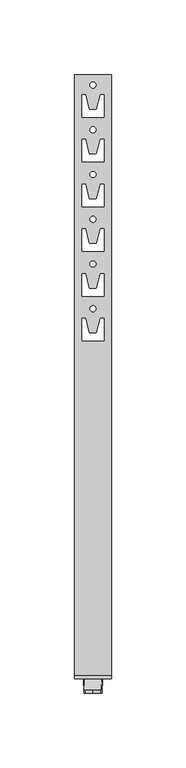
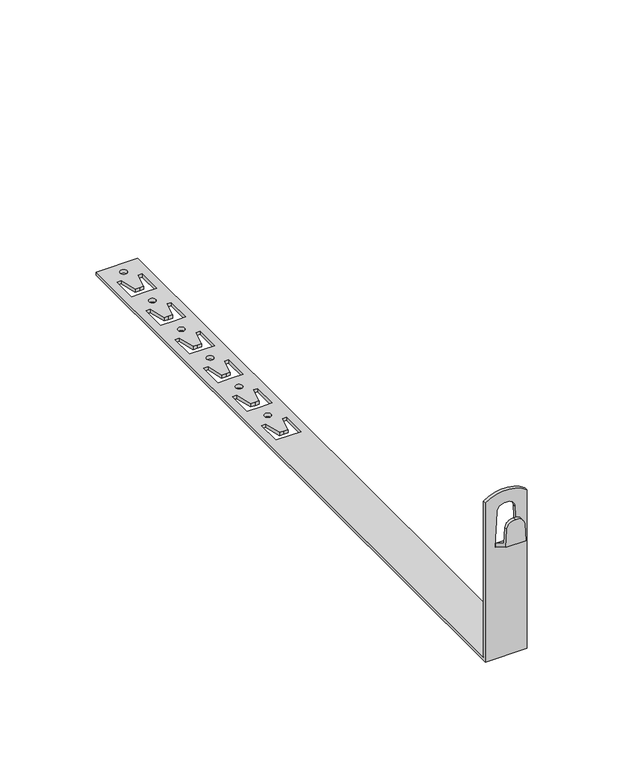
"""IFC4 building model written with IfcOpenShell, lengths in millimetres: proxy geometry, КНС_ДержательПрямойПодЧерепицу_DKC : ND2210CU_Медь_415 мм."""

import ifcopenshell
import ifcopenshell.guid

model = None  # the IFC model being written
_history = None  # IfcOwnerHistory: only IFC2X3 demands one
_inside = {}  # id of a spatial element -> (the spatial element, [elements in it])
_under = {}  # id of a project, library or spatial element -> (it, [spatial elements below it])
_declared = {}  # id of a project -> (the project, [libraries it declares])
_typed = {}  # id of a type object -> (the type object, [elements of that type])
_made_of = {}  # id of a material, layer set ... -> (it, [elements and type objects made of it])


def new_model(schema):
    """Start an empty IFC model of exactly this schema.

    Asked for "IFC4X3", IfcOpenShell would pick the latest addendum, in which some entities
    have other attributes; the version numbers below select the first issue.
    IFC2X3 requires an IfcOwnerHistory on every rooted entity: one is made here for all.
    """
    global model, _history
    if schema == "IFC4X3":
        model = ifcopenshell.file(schema_version=(4, 3, 0, 0))
    else:
        model = ifcopenshell.file(schema=schema)
    _inside.clear()
    _under.clear()
    _declared.clear()
    _typed.clear()
    _made_of.clear()
    _history = None
    if model.schema == "IFC2X3":
        org = make("IfcOrganization", Name="unknown")
        user = make(
            "IfcPersonAndOrganization",
            ThePerson=make("IfcPerson", FamilyName="unknown"),
            TheOrganization=org,
        )
        app = make(
            "IfcApplication",
            ApplicationDeveloper=org,
            Version="unknown",
            ApplicationFullName="unknown",
            ApplicationIdentifier="unknown",
        )
        _history = make(
            "IfcOwnerHistory",
            OwningUser=user,
            OwningApplication=app,
            ChangeAction="ADDED",
            CreationDate=0,
        )
    return model


def make(cls, **values):
    """One entity of the class cls with the attributes given. An attribute that is None is left unset."""
    return model.create_entity(
        cls, **{name: value for name, value in values.items() if value is not None}
    )


def rooted(cls, **values):
    """An entity with a GlobalId (a new one), such as an element, a storey or a relation."""
    return make(cls, GlobalId=ifcopenshell.guid.new(), OwnerHistory=_history, **values)


def si_unit(unit_type, name, prefix=None):
    """IfcSIUnit, for example si_unit("LENGTHUNIT", "METRE", prefix="MILLI")."""
    return make("IfcSIUnit", UnitType=unit_type, Prefix=prefix, Name=name)


def assignment(units):
    """IfcUnitAssignment: the units of a project."""
    return None if units is None else make("IfcUnitAssignment", Units=units)


def point(xyz):
    """IfcCartesianPoint."""
    return None if xyz is None else make("IfcCartesianPoint", Coordinates=xyz)


def direction(xyz):
    """IfcDirection."""
    return None if xyz is None else make("IfcDirection", DirectionRatios=xyz)


def frame(location, z_axis=None, x_axis=None):
    """IfcAxis2Placement3D, a coordinate frame: its origin and axes. An axis left out is left unset."""
    return make(
        "IfcAxis2Placement3D",
        Location=point(location),
        Axis=direction(z_axis),
        RefDirection=direction(x_axis),
    )


def origin():
    """The frame at (0, 0, 0) with its axes left unset."""
    return frame((0.0, 0.0, 0.0))


def place(relative_to, where):
    """IfcLocalPlacement: puts the frame where relative to a parent placement (None: the world)."""
    return make(
        "IfcLocalPlacement", PlacementRelTo=relative_to, RelativePlacement=where
    )


def context(
    kind, dimensions, precision=None, world=None, true_north=None, identifier=None
):
    """IfcGeometricRepresentationContext, for example the 3D "Model" context."""
    return make(
        "IfcGeometricRepresentationContext",
        ContextIdentifier=identifier,
        ContextType=kind,
        CoordinateSpaceDimension=dimensions,
        Precision=precision,
        WorldCoordinateSystem=world,
        TrueNorth=true_north,
    )


def project(units=None, contexts=None):
    """IfcProject with its units and contexts."""
    return rooted(
        "IfcProject",
        Name="project",
        RepresentationContexts=contexts,
        UnitsInContext=assignment(units),
    )


def spatial(cls, under=None, at=None, **own):
    """A site, building, storey or space (cls), placed at a placement, below another one or the project."""
    s = rooted(cls, ObjectPlacement=at, **own)
    if under is not None:
        _under.setdefault(under.id(), (under, []))[1].append(s)
    return s


def polyline(points):
    """IfcPolyline through the points."""
    return make("IfcPolyline", Points=[point(p) for p in points])


def circle_curve(where, radius):
    """IfcCircle in the frame where."""
    return make("IfcCircle", Position=where, Radius=radius)


def shape(context_of_items, identifier, shape_type, items):
    """IfcShapeRepresentation: the items that make up one representation, for example the "Body"."""
    return make(
        "IfcShapeRepresentation",
        ContextOfItems=context_of_items,
        RepresentationIdentifier=identifier,
        RepresentationType=shape_type,
        Items=items,
    )


def source(mapping_origin, context_of_items, identifier, shape_type, items):
    """IfcRepresentationMap: a shape defined once, which mapped items show again and again."""
    return make(
        "IfcRepresentationMap",
        MappingOrigin=mapping_origin,
        MappedRepresentation=shape(context_of_items, identifier, shape_type, items),
    )


def transform(
    local_origin,
    x_axis=None,
    y_axis=None,
    z_axis=None,
    scale=None,
    scale2=None,
    scale3=None,
    uniform=True,
):
    """IfcCartesianTransformationOperator3D, or its non-uniform kind. x_axis, y_axis, z_axis: its Axis1, 2, 3."""
    if uniform:
        return make(
            "IfcCartesianTransformationOperator3D",
            Axis1=direction(x_axis),
            Axis2=direction(y_axis),
            LocalOrigin=point(local_origin),
            Scale=scale,
            Axis3=direction(z_axis),
        )
    return make(
        "IfcCartesianTransformationOperator3DnonUniform",
        Axis1=direction(x_axis),
        Axis2=direction(y_axis),
        LocalOrigin=point(local_origin),
        Scale=scale,
        Axis3=direction(z_axis),
        Scale2=scale2,
        Scale3=scale3,
    )


def mapped(mapping_source, mapping_target):
    """IfcMappedItem: shows the shape of a source again, moved by a transform."""
    return make(
        "IfcMappedItem", MappingSource=mapping_source, MappingTarget=mapping_target
    )


def made_of(thing, what):
    """Note that an element or type object is made of a material, layer set ...; save() writes the relation."""
    if what is not None:
        _made_of.setdefault(what.id(), (what, []))[1].append(thing)
    return thing


def element(
    cls,
    number,
    at=None,
    inside=None,
    cuts=None,
    type_object=None,
    material=None,
    context=None,
    identifier="Body",
    shape_type=None,
    held_by="IfcProductDefinitionShape",
    body=None,
    shapes=None,
    **own,
):
    """One element of the class cls, such as IfcWall. Its Tag is "e" and its number.

    at: its placement. inside: the storey or other place that contains it. cuts: it is an
    opening in that element (IfcRelVoidsElement). A single representation is given by context,
    identifier, shape_type and body (its items); several are given by shapes. held_by: the class
    of the entity that holds the representations. save() writes the other relations.
    """
    e = rooted(cls, Tag="e%d" % number, ObjectPlacement=at, **own)
    if body is not None:
        shapes = [shape(context, identifier, shape_type, body)]
    if shapes is not None:
        e.Representation = make(held_by, Representations=shapes)
    if inside is not None:
        _inside.setdefault(inside.id(), (inside, []))[1].append(e)
    if cuts is not None:
        rooted(
            "IfcRelVoidsElement", RelatingBuildingElement=cuts, RelatedOpeningElement=e
        )
    if type_object is not None:
        _typed.setdefault(type_object.id(), (type_object, []))[1].append(e)
    return made_of(e, material)


def aggregate(whole, parts):
    """IfcRelAggregates: a whole, such as a stair, and the parts it consists of."""
    return rooted("IfcRelAggregates", RelatingObject=whole, RelatedObjects=parts)


def save(model, path):
    """Write the relations noted so far, then the file.

    IfcRelAggregates (storeys below a building ...), IfcRelContainedInSpatialStructure (elements
    in a storey), IfcRelDefinesByType, IfcRelAssociatesMaterial and IfcRelDeclares: one each for
    every whole, place, type object, material and project.
    """
    for whole, parts in _under.values():
        aggregate(whole, parts)
    for where, things in _inside.values():
        rooted(
            "IfcRelContainedInSpatialStructure",
            RelatedElements=things,
            RelatingStructure=where,
        )
    for kind, things in _typed.values():
        rooted("IfcRelDefinesByType", RelatedObjects=things, RelatingType=kind)
    for what, things in _made_of.values():
        rooted("IfcRelAssociatesMaterial", RelatedObjects=things, RelatingMaterial=what)
    for by, libraries in _declared.values():
        rooted("IfcRelDeclares", RelatingContext=by, RelatedDefinitions=libraries)
    model.write(path)


def plane_surface(at):
    """IfcPlane: the flat surface through the origin of the frame at, square to its z axis."""
    return make("IfcPlane", Position=at)


def cylinder_surface(at, radius):
    """IfcCylindricalSurface: all points at the distance radius from the z axis of the frame at."""
    return make("IfcCylindricalSurface", Position=at, Radius=radius)


def revolved_surface(curve, axis_point, axis_direction):
    """IfcSurfaceOfRevolution: the curve turned about the line through axis_point along axis_direction."""
    return make(
        "IfcSurfaceOfRevolution",
        SweptCurve=make("IfcArbitraryOpenProfileDef", ProfileType="CURVE", Curve=curve),
        AxisPosition=make("IfcAxis1Placement", Location=point(axis_point), Axis=direction(axis_direction)),
    )


def advanced_brep(points, edges, surfaces, faces):
    """IfcAdvancedBrep: a solid bounded by faces that lie on surfaces and meet in shared edges.

    An edge is (start, end): straight between two places in points (the first is 0);
    or (start, end, curve); or (start, end, curve, False) where it runs against its curve.
    A face is (place in surfaces, loops), or (place, loops, False) where it looks against
    its surface's normal. A loop lists edges by number (the first is 1), with a minus sign
    where the edge is run from its end to its start. The first loop is the outer one.
    """
    corners = [point(p) for p in points]
    vertices = [make("IfcVertexPoint", VertexGeometry=c) for c in corners]
    made = []
    for start, end, *more in edges:
        made.append(
            make(
                "IfcEdgeCurve",
                EdgeStart=vertices[start],
                EdgeEnd=vertices[end],
                EdgeGeometry=more[0] if more else make("IfcPolyline", Points=[corners[start], corners[end]]),
                SameSense=more[1] if len(more) > 1 else True,
            )
        )
    hull = []
    for where, loops, *sense in faces:
        bounds = []
        for j, loop in enumerate(loops):
            ring = [make("IfcOrientedEdge", EdgeElement=made[abs(k) - 1], Orientation=k > 0) for k in loop]
            bounds.append(
                make(
                    "IfcFaceOuterBound" if j == 0 else "IfcFaceBound",
                    Bound=make("IfcEdgeLoop", EdgeList=ring),
                    Orientation=True,
                )
            )
        hull.append(make("IfcAdvancedFace", Bounds=bounds, FaceSurface=surfaces[where], SameSense=sense[0] if sense else True))
    return make("IfcAdvancedBrep", Outer=make("IfcClosedShell", CfsFaces=hull))


def security_devices_0d63e940(model_context):
    return source(origin(), model_context, "Body", "AdvancedBrep", [
        advanced_brep(
        [(5.3645288, 0.0, 87.6660817), (0.0, 0.0, 92.1674559), (-5.3645288, 0.0, 87.6660817), (-5.9353846, 0.0, 76.7735027), (5.9353846, 0.0, 76.7735027), (6.2379611, 10.0, 71.0), (-6.2379611, 10.0, 71.0), (-6.1169305, 10.0, 73.3094011), (6.1169305, 10.0, 73.3094011), (-5.3645288, 2.0, 87.6660817), (-5.8748694, 2.0, 77.9282032), (5.8748694, 2.0, 77.9282032), (5.3645288, 2.0, 87.6660817), (0.0, 2.0, 92.1674559)],
        [
            (0, 1, circle_curve(frame((0.5834648, 0.0, 87.4155168), z_axis=(0.0, -1.0, 0.0), x_axis=(1.0, 0.0, 0.0)), 4.7876253)),
            (1, 2, circle_curve(frame((-0.5834648, 0.0, 87.4155168), z_axis=(0.0, -1.0, 0.0), x_axis=(1.0, 0.0, 0.0)), 4.7876253)),
            (2, 3),
            (3, 4),
            (4, 0),
            (5, 6),
            (6, 7),
            (7, 8),
            (8, 5),
            (2, 9),
            (9, 10),
            (10, 7),
            (6, 3),
            (4, 5),
            (8, 11),
            (11, 12),
            (12, 0),
            (12, 13, circle_curve(frame((0.5834648, 2.0, 87.4155168), z_axis=(0.0, -1.0, 0.0), x_axis=(1.0, 0.0, 0.0)), 4.7876253)),
            (13, 1),
            (13, 9, circle_curve(frame((-0.5834648, 2.0, 87.4155168), z_axis=(0.0, -1.0, 0.0), x_axis=(1.0, 0.0, 0.0)), 4.7876253)),
            (10, 11),
        ],
        [
            plane_surface(frame((-6.2414541, 0.0, 70.9333499), z_axis=(0.0, -1.0, 0.0), x_axis=(-0.05233595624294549, 0.0, -0.9986295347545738))),
            plane_surface(frame((-6.2414541, 10.0, 70.9333499), z_axis=(0.0, 1.0, 0.0), x_axis=(0.05233595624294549, 0.0, 0.9986295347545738))),
            plane_surface(frame((-5.3645288, 0.0, 87.6660817), z_axis=(-0.9986295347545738, 0.0, 0.05233595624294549), x_axis=(0.0, 1.0, 0.0))),
            plane_surface(frame((6.2379611, 0.0, 71.0), z_axis=(0.9986295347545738, 0.0, 0.05233595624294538), x_axis=(0.0, 1.0, 0.0))),
            cylinder_surface(frame((0.5834648, 10.0, 87.4155168), z_axis=(0.0, -1.0, 0.0), x_axis=(1.0, 0.0, 0.0)), 4.7876253),
            cylinder_surface(frame((-0.5834648, 10.0, 87.4155168), z_axis=(0.0, -1.0, 0.0), x_axis=(1.0, 0.0, 0.0)), 4.7876253),
            plane_surface(frame((12.5, 10.0, 71.0), z_axis=(0.0, -0.5000000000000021, -0.8660254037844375), x_axis=(-1.0, 0.0, 0.0))),
            plane_surface(frame((12.5, 2.0, 77.9282032), z_axis=(0.0, 0.5000000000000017, 0.8660254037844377), x_axis=(-1.0, 0.0, 0.0))),
            plane_surface(frame((12.5, 2.0, 102.9372685), z_axis=(0.0, 1.0, 0.0), x_axis=(-1.0, 0.0, 0.0))),
        ],
        [
            (0, [[1, 2, 3, 4, 5]]),
            (1, [[6, 7, 8, 9]]),
            (2, [[-3, 10, 11, 12, -7, 13]]),
            (3, [[-5, 14, -9, 15, 16, 17]]),
            (4, [[-1, -17, 18, 19]]),
            (5, [[-2, -19, 20, -10]]),
            (6, [[-4, -13, -6, -14]]),
            (7, [[21, -15, -8, -12]]),
            (8, [[-21, -11, -20, -18, -16]]),
        ],
    ),
        advanced_brep(
        [(12.5, 415.0, 2.0), (-12.5, 415.0, 2.0), (-12.5, 12.0, 2.0), (12.5, 12.0, 2.0), (-2.0, 407.9763791, 2.0), (2.0, 407.9763791, 2.0), (-7.5, 386.5, 2.0), (-7.5, 401.5981413, 2.0), (-5.0452497, 401.5981413, 2.0), (-2.5276553, 391.5, 2.0), (0.0, 391.5, 2.0), (2.5276553, 391.5, 2.0), (5.0452497, 401.5981413, 2.0), (7.5, 401.5981413, 2.0), (7.5, 386.5, 2.0), (0.0, 386.5, 2.0), (-2.0, 377.9763791, 2.0), (2.0, 377.9763791, 2.0), (-7.5, 356.5, 2.0), (-7.5, 371.5981413, 2.0), (-5.0452497, 371.5981413, 2.0), (-2.5276553, 361.5, 2.0), (0.0, 361.5, 2.0), (2.5276553, 361.5, 2.0), (5.0452497, 371.5981413, 2.0), (7.5, 371.5981413, 2.0), (7.5, 356.5, 2.0), (0.0, 356.5, 2.0), (-2.0, 347.9763791, 2.0), (2.0, 347.9763791, 2.0), (-7.5, 326.5, 2.0), (-7.5, 341.5981413, 2.0), (-5.0452497, 341.5981413, 2.0), (-2.5276553, 331.5, 2.0), (0.0, 331.5, 2.0), (2.5276553, 331.5, 2.0), (5.0452497, 341.5981413, 2.0), (7.5, 341.5981413, 2.0), (7.5, 326.5, 2.0), (0.0, 326.5, 2.0), (-2.0, 317.9763791, 2.0), (2.0, 317.9763791, 2.0), (-7.5, 296.5, 2.0), (-7.5, 311.5981413, 2.0), (-5.0452497, 311.5981413, 2.0), (-2.5276553, 301.5, 2.0), (0.0, 301.5, 2.0), (2.5276553, 301.5, 2.0), (5.0452497, 311.5981413, 2.0), (7.5, 311.5981413, 2.0), (7.5, 296.5, 2.0), (0.0, 296.5, 2.0), (-2.0, 287.9763791, 2.0), (2.0, 287.9763791, 2.0), (-7.5, 266.5, 2.0), (-7.5, 281.5981413, 2.0), (-5.0452497, 281.5981413, 2.0), (-2.5276553, 271.5, 2.0), (0.0, 271.5, 2.0), (2.5276553, 271.5, 2.0), (5.0452497, 281.5981413, 2.0), (7.5, 281.5981413, 2.0), (7.5, 266.5, 2.0), (0.0, 266.5, 2.0), (-2.0, 257.9763791, 2.0), (2.0, 257.9763791, 2.0), (-7.5, 236.5, 2.0), (-7.5, 251.5981413, 2.0), (-5.0452497, 251.5981413, 2.0), (-2.5276553, 241.5, 2.0), (0.0, 241.5, 2.0), (2.5276553, 241.5, 2.0), (5.0452497, 251.5981413, 2.0), (7.5, 251.5981413, 2.0), (7.5, 236.5, 2.0), (0.0, 236.5, 2.0), (12.5, 415.0, 0.0), (12.5, 10.0, 0.0), (-12.5, 10.0, 0.0), (-12.5, 415.0, 0.0), (-2.0, 407.9763791, 0.0), (2.0, 407.9763791, 0.0), (-7.5, 386.5, 0.0), (0.0, 386.5, 0.0), (7.5, 386.5, 0.0), (7.5, 401.5981413, 0.0), (5.0452497, 401.5981413, 0.0), (2.5276553, 391.5, 0.0), (0.0, 391.5, 0.0), (-2.5276553, 391.5, 0.0), (-5.0452497, 401.5981413, 0.0), (-7.5, 401.5981413, 0.0), (-2.0, 377.9763791, 0.0), (2.0, 377.9763791, 0.0), (-7.5, 356.5, 0.0), (0.0, 356.5, 0.0), (7.5, 356.5, 0.0), (7.5, 371.5981413, 0.0), (5.0452497, 371.5981413, 0.0), (2.5276553, 361.5, 0.0), (0.0, 361.5, 0.0), (-2.5276553, 361.5, 0.0), (-5.0452497, 371.5981413, 0.0), (-7.5, 371.5981413, 0.0), (-2.0, 347.9763791, 0.0), (2.0, 347.9763791, 0.0), (-7.5, 326.5, 0.0), (0.0, 326.5, 0.0), (7.5, 326.5, 0.0), (7.5, 341.5981413, 0.0), (5.0452497, 341.5981413, 0.0), (2.5276553, 331.5, 0.0), (0.0, 331.5, 0.0), (-2.5276553, 331.5, 0.0), (-5.0452497, 341.5981413, 0.0), (-7.5, 341.5981413, 0.0), (-2.0, 317.9763791, 0.0), (2.0, 317.9763791, 0.0), (-7.5, 296.5, 0.0), (0.0, 296.5, 0.0), (7.5, 296.5, 0.0), (7.5, 311.5981413, 0.0), (5.0452497, 311.5981413, 0.0), (2.5276553, 301.5, 0.0), (0.0, 301.5, 0.0), (-2.5276553, 301.5, 0.0), (-5.0452497, 311.5981413, 0.0), (-7.5, 311.5981413, 0.0), (-2.0, 287.9763791, 0.0), (2.0, 287.9763791, 0.0), (-7.5, 266.5, 0.0), (0.0, 266.5, 0.0), (7.5, 266.5, 0.0), (7.5, 281.5981413, 0.0), (5.0452497, 281.5981413, 0.0), (2.5276553, 271.5, 0.0), (0.0, 271.5, 0.0), (-2.5276553, 271.5, 0.0), (-5.0452497, 281.5981413, 0.0), (-7.5, 281.5981413, 0.0), (-2.0, 257.9763791, 0.0), (2.0, 257.9763791, 0.0), (-7.5, 236.5, 0.0), (0.0, 236.5, 0.0), (7.5, 236.5, 0.0), (7.5, 251.5981413, 0.0), (5.0452497, 251.5981413, 0.0), (2.5276553, 241.5, 0.0), (0.0, 241.5, 0.0), (-2.5276553, 241.5, 0.0), (-5.0452497, 251.5981413, 0.0), (-7.5, 251.5981413, 0.0), (-12.5, 10.0, 100.874537), (-12.5, 12.0, 100.874537), (12.5, 10.0, 100.874537), (-5.3645288, 10.0, 92.6660817), (0.0, 10.0, 97.1674559), (5.3645288, 10.0, 92.6660817), (6.5, 10.0, 71.0), (-6.5, 10.0, 71.0), (12.5, 12.0, 100.874537), (-5.3645288, 12.0, 92.6660817), (-6.5, 12.0, 71.0), (6.5, 12.0, 71.0), (5.3645288, 12.0, 92.6660817), (0.0, 12.0, 97.1674559)],
        [
            (0, 1),
            (1, 2),
            (2, 3),
            (3, 0),
            (4, 5, circle_curve(frame((0.0, 407.9763791, 2.0), z_axis=(0.0, 0.0, -1.0), x_axis=(1.0, 0.0, 0.0)), 2.0)),
            (5, 4, circle_curve(frame((0.0, 407.9763791, 2.0), z_axis=(0.0, 0.0, -1.0), x_axis=(1.0, 0.0, 0.0)), 2.0)),
            (6, 7),
            (7, 8),
            (8, 9),
            (9, 10),
            (10, 11),
            (11, 12),
            (12, 13),
            (13, 14),
            (14, 15),
            (15, 6),
            (16, 17, circle_curve(frame((0.0, 377.9763791, 2.0), z_axis=(0.0, 0.0, -1.0), x_axis=(1.0, 0.0, 0.0)), 2.0)),
            (17, 16, circle_curve(frame((0.0, 377.9763791, 2.0), z_axis=(0.0, 0.0, -1.0), x_axis=(1.0, 0.0, 0.0)), 2.0)),
            (18, 19),
            (19, 20),
            (20, 21),
            (21, 22),
            (22, 23),
            (23, 24),
            (24, 25),
            (25, 26),
            (26, 27),
            (27, 18),
            (28, 29, circle_curve(frame((0.0, 347.9763791, 2.0), z_axis=(0.0, 0.0, -1.0), x_axis=(1.0, 0.0, 0.0)), 2.0)),
            (29, 28, circle_curve(frame((0.0, 347.9763791, 2.0), z_axis=(0.0, 0.0, -1.0), x_axis=(1.0, 0.0, 0.0)), 2.0)),
            (30, 31),
            (31, 32),
            (32, 33),
            (33, 34),
            (34, 35),
            (35, 36),
            (36, 37),
            (37, 38),
            (38, 39),
            (39, 30),
            (40, 41, circle_curve(frame((0.0, 317.9763791, 2.0), z_axis=(0.0, 0.0, -1.0), x_axis=(1.0, 0.0, 0.0)), 2.0)),
            (41, 40, circle_curve(frame((0.0, 317.9763791, 2.0), z_axis=(0.0, 0.0, -1.0), x_axis=(1.0, 0.0, 0.0)), 2.0)),
            (42, 43),
            (43, 44),
            (44, 45),
            (45, 46),
            (46, 47),
            (47, 48),
            (48, 49),
            (49, 50),
            (50, 51),
            (51, 42),
            (52, 53, circle_curve(frame((0.0, 287.9763791, 2.0), z_axis=(0.0, 0.0, -1.0), x_axis=(1.0, 0.0, 0.0)), 2.0)),
            (53, 52, circle_curve(frame((0.0, 287.9763791, 2.0), z_axis=(0.0, 0.0, -1.0), x_axis=(1.0, 0.0, 0.0)), 2.0)),
            (54, 55),
            (55, 56),
            (56, 57),
            (57, 58),
            (58, 59),
            (59, 60),
            (60, 61),
            (61, 62),
            (62, 63),
            (63, 54),
            (64, 65, circle_curve(frame((0.0, 257.9763791, 2.0), z_axis=(0.0, 0.0, -1.0), x_axis=(1.0, 0.0, 0.0)), 2.0)),
            (65, 64, circle_curve(frame((0.0, 257.9763791, 2.0), z_axis=(0.0, 0.0, -1.0), x_axis=(1.0, 0.0, 0.0)), 2.0)),
            (66, 67),
            (67, 68),
            (68, 69),
            (69, 70),
            (70, 71),
            (71, 72),
            (72, 73),
            (73, 74),
            (74, 75),
            (75, 66),
            (76, 77),
            (77, 78),
            (78, 79),
            (79, 76),
            (80, 81, circle_curve(frame((0.0, 407.9763791, 0.0), z_axis=(0.0, 0.0, 1.0), x_axis=(1.0, 0.0, 0.0)), 2.0)),
            (81, 80, circle_curve(frame((0.0, 407.9763791, 0.0), z_axis=(0.0, 0.0, 1.0), x_axis=(1.0, 0.0, 0.0)), 2.0)),
            (82, 83),
            (83, 84),
            (84, 85),
            (85, 86),
            (86, 87),
            (87, 88),
            (88, 89),
            (89, 90),
            (90, 91),
            (91, 82),
            (92, 93, circle_curve(frame((0.0, 377.9763791, 0.0), z_axis=(0.0, 0.0, 1.0), x_axis=(1.0, 0.0, 0.0)), 2.0)),
            (93, 92, circle_curve(frame((0.0, 377.9763791, 0.0), z_axis=(0.0, 0.0, 1.0), x_axis=(1.0, 0.0, 0.0)), 2.0)),
            (94, 95),
            (95, 96),
            (96, 97),
            (97, 98),
            (98, 99),
            (99, 100),
            (100, 101),
            (101, 102),
            (102, 103),
            (103, 94),
            (104, 105, circle_curve(frame((0.0, 347.9763791, 0.0), z_axis=(0.0, 0.0, 1.0), x_axis=(1.0, 0.0, 0.0)), 2.0)),
            (105, 104, circle_curve(frame((0.0, 347.9763791, 0.0), z_axis=(0.0, 0.0, 1.0), x_axis=(1.0, 0.0, 0.0)), 2.0)),
            (106, 107),
            (107, 108),
            (108, 109),
            (109, 110),
            (110, 111),
            (111, 112),
            (112, 113),
            (113, 114),
            (114, 115),
            (115, 106),
            (116, 117, circle_curve(frame((0.0, 317.9763791, 0.0), z_axis=(0.0, 0.0, 1.0), x_axis=(1.0, 0.0, 0.0)), 2.0)),
            (117, 116, circle_curve(frame((0.0, 317.9763791, 0.0), z_axis=(0.0, 0.0, 1.0), x_axis=(1.0, 0.0, 0.0)), 2.0)),
            (118, 119),
            (119, 120),
            (120, 121),
            (121, 122),
            (122, 123),
            (123, 124),
            (124, 125),
            (125, 126),
            (126, 127),
            (127, 118),
            (128, 129, circle_curve(frame((0.0, 287.9763791, 0.0), z_axis=(0.0, 0.0, 1.0), x_axis=(1.0, 0.0, 0.0)), 2.0)),
            (129, 128, circle_curve(frame((0.0, 287.9763791, 0.0), z_axis=(0.0, 0.0, 1.0), x_axis=(1.0, 0.0, 0.0)), 2.0)),
            (130, 131),
            (131, 132),
            (132, 133),
            (133, 134),
            (134, 135),
            (135, 136),
            (136, 137),
            (137, 138),
            (138, 139),
            (139, 130),
            (140, 141, circle_curve(frame((0.0, 257.9763791, 0.0), z_axis=(0.0, 0.0, 1.0), x_axis=(1.0, 0.0, 0.0)), 2.0)),
            (141, 140, circle_curve(frame((0.0, 257.9763791, 0.0), z_axis=(0.0, 0.0, 1.0), x_axis=(1.0, 0.0, 0.0)), 2.0)),
            (142, 143),
            (143, 144),
            (144, 145),
            (145, 146),
            (146, 147),
            (147, 148),
            (148, 149),
            (149, 150),
            (150, 151),
            (151, 142),
            (0, 76),
            (79, 1),
            (78, 152),
            (152, 153),
            (153, 2),
            (77, 154),
            (154, 152, circle_curve(frame((0.0, 10.0, 84.0), z_axis=(0.0, -1.0, 0.0), x_axis=(1.0, 0.0, 0.0)), 21.0)),
            (155, 156, circle_curve(frame((-0.5834648, 10.0, 92.4155168), z_axis=(0.0, 1.0, 0.0), x_axis=(1.0, 0.0, 0.0)), 4.7876253)),
            (156, 157, circle_curve(frame((0.5834648, 10.0, 92.4155168), z_axis=(0.0, 1.0, 0.0), x_axis=(1.0, 0.0, 0.0)), 4.7876253)),
            (157, 158),
            (158, 159),
            (159, 155),
            (3, 160),
            (160, 154),
            (4, 80),
            (81, 5),
            (6, 82),
            (91, 7),
            (90, 8),
            (89, 9),
            (88, 10),
            (87, 11),
            (86, 12),
            (85, 13),
            (84, 14),
            (83, 15),
            (16, 92),
            (93, 17),
            (18, 94),
            (103, 19),
            (102, 20),
            (101, 21),
            (100, 22),
            (99, 23),
            (98, 24),
            (97, 25),
            (96, 26),
            (95, 27),
            (28, 104),
            (105, 29),
            (30, 106),
            (115, 31),
            (114, 32),
            (113, 33),
            (112, 34),
            (111, 35),
            (110, 36),
            (109, 37),
            (108, 38),
            (107, 39),
            (40, 116),
            (117, 41),
            (42, 118),
            (127, 43),
            (126, 44),
            (125, 45),
            (124, 46),
            (123, 47),
            (122, 48),
            (121, 49),
            (120, 50),
            (119, 51),
            (52, 128),
            (129, 53),
            (54, 130),
            (139, 55),
            (138, 56),
            (137, 57),
            (136, 58),
            (135, 59),
            (134, 60),
            (133, 61),
            (132, 62),
            (131, 63),
            (64, 140),
            (141, 65),
            (66, 142),
            (151, 67),
            (150, 68),
            (149, 69),
            (148, 70),
            (147, 71),
            (146, 72),
            (145, 73),
            (144, 74),
            (143, 75),
            (153, 160, circle_curve(frame((0.0, 12.0, 84.0), z_axis=(0.0, 1.0, 0.0), x_axis=(1.0, 0.0, 0.0)), 21.0)),
            (161, 162),
            (162, 163),
            (163, 164),
            (164, 165, circle_curve(frame((0.5834648, 12.0, 92.4155168), z_axis=(0.0, -1.0, 0.0), x_axis=(1.0, 0.0, 0.0)), 4.7876253)),
            (165, 161, circle_curve(frame((-0.5834648, 12.0, 92.4155168), z_axis=(0.0, -1.0, 0.0), x_axis=(1.0, 0.0, 0.0)), 4.7876253)),
            (155, 161),
            (165, 156),
            (164, 157),
            (163, 158),
            (162, 159),
        ],
        [
            plane_surface(frame((-12.5, 415.0, 2.0), z_axis=(0.0, 0.0, 1.0), x_axis=(-1.0, 0.0, 0.0))),
            plane_surface(frame((-12.5, 415.0, 0.0), z_axis=(0.0, 0.0, -1.0), x_axis=(1.0, 0.0, 0.0))),
            plane_surface(frame((12.5, 415.0, 2.0), z_axis=(0.0, 1.0, 0.0), x_axis=(0.0, 0.0, -1.0))),
            plane_surface(frame((-12.5, 415.0, 2.0), z_axis=(-1.0, 0.0, 0.0), x_axis=(0.0, 0.0, -1.0))),
            plane_surface(frame((-12.5, 10.0, 2.0), z_axis=(0.0, -1.0, 0.0), x_axis=(0.0, 0.0, -1.0))),
            plane_surface(frame((12.5, 10.0, 2.0), z_axis=(1.0, 0.0, 0.0), x_axis=(0.0, 0.0, -1.0))),
            revolved_surface(polyline([(2.0, 407.9763791, 0.0), (2.0, 407.9763791, 2.0)]), (0.0, 407.9763791, 0.0), (0.0, 0.0, -1.0)),
            plane_surface(frame((-7.5, 386.5, 2.0), z_axis=(1.0, 0.0, 0.0), x_axis=(0.0, 0.0, -1.0))),
            plane_surface(frame((-7.5, 401.5981413, 2.0), z_axis=(0.0, -1.0, 0.0), x_axis=(0.0, 0.0, -1.0))),
            plane_surface(frame((-5.0452497, 401.5981413, 2.0), z_axis=(-0.9702992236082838, -0.2419078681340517, 0.0), x_axis=(0.0, 0.0, -1.0))),
            plane_surface(frame((-2.5276553, 391.5, 2.0), z_axis=(0.0, -1.0, 0.0), x_axis=(0.0, 0.0, -1.0))),
            plane_surface(frame((0.0, 391.5, 2.0), z_axis=(0.0, -1.0, 0.0), x_axis=(0.0, 0.0, -1.0))),
            plane_surface(frame((2.5276553, 391.5, 2.0), z_axis=(0.9702992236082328, -0.2419078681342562, 0.0), x_axis=(0.0, 0.0, -1.0))),
            plane_surface(frame((5.0452497, 401.5981413, 2.0), z_axis=(0.0, -1.0, 0.0), x_axis=(0.0, 0.0, -1.0))),
            plane_surface(frame((7.5, 401.5981413, 2.0), z_axis=(-1.0, 0.0, 0.0), x_axis=(0.0, 0.0, -1.0))),
            plane_surface(frame((7.5, 386.5, 2.0), z_axis=(0.0, 1.0, 0.0), x_axis=(0.0, 0.0, -1.0))),
            plane_surface(frame((0.0, 386.5, 2.0), z_axis=(0.0, 1.0, 0.0), x_axis=(0.0, 0.0, -1.0))),
            revolved_surface(polyline([(2.0, 377.9763791, 0.0), (2.0, 377.9763791, 2.0)]), (0.0, 377.9763791, 0.0), (0.0, 0.0, -1.0)),
            plane_surface(frame((-7.5, 356.5, 2.0), z_axis=(1.0, 0.0, 0.0), x_axis=(0.0, 0.0, -1.0))),
            plane_surface(frame((-7.5, 371.5981413, 2.0), z_axis=(0.0, -1.0, 0.0), x_axis=(0.0, 0.0, -1.0))),
            plane_surface(frame((-5.0452497, 371.5981413, 2.0), z_axis=(-0.9702992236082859, -0.24190786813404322, 0.0), x_axis=(0.0, 0.0, -1.0))),
            plane_surface(frame((-2.5276553, 361.5, 2.0), z_axis=(0.0, -1.0, 0.0), x_axis=(0.0, 0.0, -1.0))),
            plane_surface(frame((0.0, 361.5, 2.0), z_axis=(0.0, -1.0, 0.0), x_axis=(0.0, 0.0, -1.0))),
            plane_surface(frame((2.5276553, 361.5, 2.0), z_axis=(0.9702992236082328, -0.24190786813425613, 0.0), x_axis=(0.0, 0.0, -1.0))),
            plane_surface(frame((5.0452497, 371.5981413, 2.0), z_axis=(0.0, -1.0, 0.0), x_axis=(0.0, 0.0, -1.0))),
            plane_surface(frame((7.5, 371.5981413, 2.0), z_axis=(-1.0, 0.0, 0.0), x_axis=(0.0, 0.0, -1.0))),
            plane_surface(frame((7.5, 356.5, 2.0), z_axis=(0.0, 1.0, 0.0), x_axis=(0.0, 0.0, -1.0))),
            plane_surface(frame((0.0, 356.5, 2.0), z_axis=(0.0, 1.0, 0.0), x_axis=(0.0, 0.0, -1.0))),
            revolved_surface(polyline([(2.0, 347.9763791, 0.0), (2.0, 347.9763791, 2.0)]), (0.0, 347.9763791, 0.0), (0.0, 0.0, -1.0)),
            plane_surface(frame((-7.5, 326.5, 2.0), z_axis=(1.0, 0.0, 0.0), x_axis=(0.0, 0.0, -1.0))),
            plane_surface(frame((-7.5, 341.5981413, 2.0), z_axis=(0.0, -1.0, 0.0), x_axis=(0.0, 0.0, -1.0))),
            plane_surface(frame((-5.0452497, 341.5981413, 2.0), z_axis=(-0.9702992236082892, -0.24190786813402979, 0.0), x_axis=(0.0, 0.0, -1.0))),
            plane_surface(frame((-2.5276553, 331.5, 2.0), z_axis=(0.0, -1.0, 0.0), x_axis=(0.0, 0.0, -1.0))),
            plane_surface(frame((0.0, 331.5, 2.0), z_axis=(0.0, -1.0, 0.0), x_axis=(0.0, 0.0, -1.0))),
            plane_surface(frame((2.5276553, 331.5, 2.0), z_axis=(0.9702992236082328, -0.24190786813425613, 0.0), x_axis=(0.0, 0.0, -1.0))),
            plane_surface(frame((5.0452497, 341.5981413, 2.0), z_axis=(0.0, -1.0, 0.0), x_axis=(0.0, 0.0, -1.0))),
            plane_surface(frame((7.5, 341.5981413, 2.0), z_axis=(-1.0, 0.0, 0.0), x_axis=(0.0, 0.0, -1.0))),
            plane_surface(frame((7.5, 326.5, 2.0), z_axis=(0.0, 1.0, 0.0), x_axis=(0.0, 0.0, -1.0))),
            plane_surface(frame((0.0, 326.5, 2.0), z_axis=(0.0, 1.0, 0.0), x_axis=(0.0, 0.0, -1.0))),
            revolved_surface(polyline([(2.0, 317.9763791, 0.0), (2.0, 317.9763791, 2.0)]), (0.0, 317.9763791, 0.0), (0.0, 0.0, -1.0)),
            plane_surface(frame((-7.5, 296.5, 2.0), z_axis=(1.0, 0.0, 0.0), x_axis=(0.0, 0.0, -1.0))),
            plane_surface(frame((-7.5, 311.5981413, 2.0), z_axis=(0.0, -1.0, 0.0), x_axis=(0.0, 0.0, -1.0))),
            plane_surface(frame((-5.0452497, 311.5981413, 2.0), z_axis=(-0.9702992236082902, -0.24190786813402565, 0.0), x_axis=(0.0, 0.0, -1.0))),
            plane_surface(frame((-2.5276553, 301.5, 2.0), z_axis=(0.0, -1.0, 0.0), x_axis=(0.0, 0.0, -1.0))),
            plane_surface(frame((0.0, 301.5, 2.0), z_axis=(0.0, -1.0, 0.0), x_axis=(0.0, 0.0, -1.0))),
            plane_surface(frame((2.5276553, 301.5, 2.0), z_axis=(0.9702992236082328, -0.24190786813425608, 0.0), x_axis=(0.0, 0.0, -1.0))),
            plane_surface(frame((5.0452497, 311.5981413, 2.0), z_axis=(0.0, -1.0, 0.0), x_axis=(0.0, 0.0, -1.0))),
            plane_surface(frame((7.5, 311.5981413, 2.0), z_axis=(-1.0, 0.0, 0.0), x_axis=(0.0, 0.0, -1.0))),
            plane_surface(frame((7.5, 296.5, 2.0), z_axis=(0.0, 1.0, 0.0), x_axis=(0.0, 0.0, -1.0))),
            plane_surface(frame((0.0, 296.5, 2.0), z_axis=(0.0, 1.0, 0.0), x_axis=(0.0, 0.0, -1.0))),
            revolved_surface(polyline([(2.0, 287.9763791, 0.0), (2.0, 287.9763791, 2.0)]), (0.0, 287.9763791, 0.0), (0.0, 0.0, -1.0)),
            plane_surface(frame((-7.5, 266.5, 2.0), z_axis=(1.0, 0.0, 0.0), x_axis=(0.0, 0.0, -1.0))),
            plane_surface(frame((-7.5, 281.5981413, 2.0), z_axis=(0.0, -1.0, 0.0), x_axis=(0.0, 0.0, -1.0))),
            plane_surface(frame((-5.0452497, 281.5981413, 2.0), z_axis=(-0.9702992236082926, -0.2419078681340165, 0.0), x_axis=(0.0, 0.0, -1.0))),
            plane_surface(frame((-2.5276553, 271.5, 2.0), z_axis=(0.0, -1.0, 0.0), x_axis=(0.0, 0.0, -1.0))),
            plane_surface(frame((0.0, 271.5, 2.0), z_axis=(0.0, -1.0, 0.0), x_axis=(0.0, 0.0, -1.0))),
            plane_surface(frame((2.5276553, 271.5, 2.0), z_axis=(0.9702992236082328, -0.24190786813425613, 0.0), x_axis=(0.0, 0.0, -1.0))),
            plane_surface(frame((5.0452497, 281.5981413, 2.0), z_axis=(0.0, -1.0, 0.0), x_axis=(0.0, 0.0, -1.0))),
            plane_surface(frame((7.5, 281.5981413, 2.0), z_axis=(-1.0, 0.0, 0.0), x_axis=(0.0, 0.0, -1.0))),
            plane_surface(frame((7.5, 266.5, 2.0), z_axis=(0.0, 1.0, 0.0), x_axis=(0.0, 0.0, -1.0))),
            plane_surface(frame((0.0, 266.5, 2.0), z_axis=(0.0, 1.0, 0.0), x_axis=(0.0, 0.0, -1.0))),
            revolved_surface(polyline([(2.0, 257.9763791, 0.0), (2.0, 257.9763791, 2.0)]), (0.0, 257.9763791, 0.0), (0.0, 0.0, -1.0)),
            plane_surface(frame((-7.5, 236.5, 2.0), z_axis=(1.0, 0.0, 0.0), x_axis=(0.0, 0.0, -1.0))),
            plane_surface(frame((-7.5, 251.5981413, 2.0), z_axis=(0.0, -1.0, 0.0), x_axis=(0.0, 0.0, -1.0))),
            plane_surface(frame((-5.0452497, 251.5981413, 2.0), z_axis=(-0.9702992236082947, -0.24190786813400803, 0.0), x_axis=(0.0, 0.0, -1.0))),
            plane_surface(frame((-2.5276553, 241.5, 2.0), z_axis=(0.0, -1.0, 0.0), x_axis=(0.0, 0.0, -1.0))),
            plane_surface(frame((0.0, 241.5, 2.0), z_axis=(0.0, -1.0, 0.0), x_axis=(0.0, 0.0, -1.0))),
            plane_surface(frame((2.5276553, 241.5, 2.0), z_axis=(0.9702992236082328, -0.2419078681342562, 0.0), x_axis=(0.0, 0.0, -1.0))),
            plane_surface(frame((5.0452497, 251.5981413, 2.0), z_axis=(0.0, -1.0, 0.0), x_axis=(0.0, 0.0, -1.0))),
            plane_surface(frame((7.5, 251.5981413, 2.0), z_axis=(-1.0, 0.0, 0.0), x_axis=(0.0, 0.0, -1.0))),
            plane_surface(frame((7.5, 236.5, 2.0), z_axis=(0.0, 1.0, 0.0), x_axis=(0.0, 0.0, -1.0))),
            plane_surface(frame((0.0, 236.5, 2.0), z_axis=(0.0, 1.0, 0.0), x_axis=(0.0, 0.0, -1.0))),
            plane_surface(frame((-12.5, 12.0, 65.0), z_axis=(0.0, 1.0, 0.0), x_axis=(0.0, 0.0, 1.0))),
            cylinder_surface(frame((0.0, 12.0, 84.0), z_axis=(0.0, -1.0, 0.0), x_axis=(1.0, 0.0, 0.0)), 21.0),
            revolved_surface(polyline([(4.2041605, 12.0, 92.4155168), (4.2041605, 10.0, 92.4155168)]), (-0.5834648, 0.0, 92.4155168), (0.0, 1.0, 0.0)),
            revolved_surface(polyline([(5.3710901, 12.0, 92.4155168), (5.3710901, 10.0, 92.4155168)]), (0.5834648, 0.0, 92.4155168), (0.0, 1.0, 0.0)),
            plane_surface(frame((5.3645288, 10.0, 92.6660817), z_axis=(-0.9986295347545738, 0.0, -0.0523359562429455), x_axis=(0.0, 1.0, 0.0))),
            plane_surface(frame((6.5, 10.0, 71.0), z_axis=(0.0, 0.0, 1.0), x_axis=(0.0, 1.0, 0.0))),
            plane_surface(frame((-6.5, 10.0, 71.0), z_axis=(0.9986295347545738, 0.0, -0.052335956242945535), x_axis=(0.0, 1.0, 0.0))),
        ],
        [
            (0, [[1, 2, 3, 4], [5, 6], [7, 8, 9, 10, 11, 12, 13, 14, 15, 16], [17, 18], [19, 20, 21, 22, 23, 24, 25, 26, 27, 28], [29, 30], [31, 32, 33, 34, 35, 36, 37, 38, 39, 40], [41, 42], [43, 44, 45, 46, 47, 48, 49, 50, 51, 52], [53, 54], [55, 56, 57, 58, 59, 60, 61, 62, 63, 64], [65, 66], [67, 68, 69, 70, 71, 72, 73, 74, 75, 76]]),
            (1, [[77, 78, 79, 80], [81, 82], [83, 84, 85, 86, 87, 88, 89, 90, 91, 92], [93, 94], [95, 96, 97, 98, 99, 100, 101, 102, 103, 104], [105, 106], [107, 108, 109, 110, 111, 112, 113, 114, 115, 116], [117, 118], [119, 120, 121, 122, 123, 124, 125, 126, 127, 128], [129, 130], [131, 132, 133, 134, 135, 136, 137, 138, 139, 140], [141, 142], [143, 144, 145, 146, 147, 148, 149, 150, 151, 152]]),
            (2, [[-1, 153, -80, 154]]),
            (3, [[-154, -79, 155, 156, 157, -2]]),
            (4, [[-155, -78, 158, 159], [160, 161, 162, 163, 164]]),
            (5, [[-153, -4, 165, 166, -158, -77]]),
            (6, [[-5, 167, -82, 168]]),
            (6, [[-6, -168, -81, -167]]),
            (7, [[-7, 169, -92, 170]]),
            (8, [[-8, -170, -91, 171]]),
            (9, [[-9, -171, -90, 172]]),
            (10, [[-10, -172, -89, 173]]),
            (11, [[-11, -173, -88, 174]]),
            (12, [[-12, -174, -87, 175]]),
            (13, [[-13, -175, -86, 176]]),
            (14, [[-14, -176, -85, 177]]),
            (15, [[-15, -177, -84, 178]]),
            (16, [[-16, -178, -83, -169]]),
            (17, [[-17, 179, -94, 180]]),
            (17, [[-18, -180, -93, -179]]),
            (18, [[-19, 181, -104, 182]]),
            (19, [[-20, -182, -103, 183]]),
            (20, [[-21, -183, -102, 184]]),
            (21, [[-22, -184, -101, 185]]),
            (22, [[-23, -185, -100, 186]]),
            (23, [[-24, -186, -99, 187]]),
            (24, [[-25, -187, -98, 188]]),
            (25, [[-26, -188, -97, 189]]),
            (26, [[-27, -189, -96, 190]]),
            (27, [[-28, -190, -95, -181]]),
            (28, [[-29, 191, -106, 192]]),
            (28, [[-30, -192, -105, -191]]),
            (29, [[-31, 193, -116, 194]]),
            (30, [[-32, -194, -115, 195]]),
            (31, [[-33, -195, -114, 196]]),
            (32, [[-34, -196, -113, 197]]),
            (33, [[-35, -197, -112, 198]]),
            (34, [[-36, -198, -111, 199]]),
            (35, [[-37, -199, -110, 200]]),
            (36, [[-38, -200, -109, 201]]),
            (37, [[-39, -201, -108, 202]]),
            (38, [[-40, -202, -107, -193]]),
            (39, [[-41, 203, -118, 204]]),
            (39, [[-42, -204, -117, -203]]),
            (40, [[-43, 205, -128, 206]]),
            (41, [[-44, -206, -127, 207]]),
            (42, [[-45, -207, -126, 208]]),
            (43, [[-46, -208, -125, 209]]),
            (44, [[-47, -209, -124, 210]]),
            (45, [[-48, -210, -123, 211]]),
            (46, [[-49, -211, -122, 212]]),
            (47, [[-50, -212, -121, 213]]),
            (48, [[-51, -213, -120, 214]]),
            (49, [[-52, -214, -119, -205]]),
            (50, [[-53, 215, -130, 216]]),
            (50, [[-54, -216, -129, -215]]),
            (51, [[-55, 217, -140, 218]]),
            (52, [[-56, -218, -139, 219]]),
            (53, [[-57, -219, -138, 220]]),
            (54, [[-58, -220, -137, 221]]),
            (55, [[-59, -221, -136, 222]]),
            (56, [[-60, -222, -135, 223]]),
            (57, [[-61, -223, -134, 224]]),
            (58, [[-62, -224, -133, 225]]),
            (59, [[-63, -225, -132, 226]]),
            (60, [[-64, -226, -131, -217]]),
            (61, [[-65, 227, -142, 228]]),
            (61, [[-66, -228, -141, -227]]),
            (62, [[-67, 229, -152, 230]]),
            (63, [[-68, -230, -151, 231]]),
            (64, [[-69, -231, -150, 232]]),
            (65, [[-70, -232, -149, 233]]),
            (66, [[-71, -233, -148, 234]]),
            (67, [[-72, -234, -147, 235]]),
            (68, [[-73, -235, -146, 236]]),
            (69, [[-74, -236, -145, 237]]),
            (70, [[-75, -237, -144, 238]]),
            (71, [[-76, -238, -143, -229]]),
            (72, [[239, -165, -3, -157], [240, 241, 242, 243, 244]]),
            (73, [[-159, -166, -239, -156]]),
            (74, [[-160, 245, -244, 246]]),
            (75, [[-161, -246, -243, 247]]),
            (76, [[-162, -247, -242, 248]]),
            (77, [[-163, -248, -241, 249]]),
            (78, [[-164, -249, -240, -245]]),
        ],
    ),
    ])


if __name__ == "__main__":
    model = new_model("IFC4")
    model_context = context("Model", 3, world=origin())
    ifc_project = project(units=[si_unit("LENGTHUNIT", "METRE", prefix="MILLI")], contexts=[model_context])
    site = spatial("IfcSite", under=ifc_project)
    building = spatial("IfcBuilding", under=site)
    placement = place(None, origin())
    security_devices_shape = security_devices_0d63e940(model_context)
    element("IfcBuildingElementProxy", 1, Name="КНС_ДержательПрямойПодЧерепицу_DKC : ND2210CU_Медь_415 мм", ObjectType="КНС_ДержательПрямойПодЧерепицу_DKC : ND2210CU_Медь_415 мм", at=placement, inside=building, context=model_context, shape_type="MappedRepresentation", body=[
        mapped(security_devices_shape, transform((0.0, 0.0, 0.0), x_axis=(1.0, 0.0, 0.0), y_axis=(0.0, 1.0, 0.0), z_axis=(0.0, 0.0, 1.0))),
    ])
    save(model, "model.ifc")
